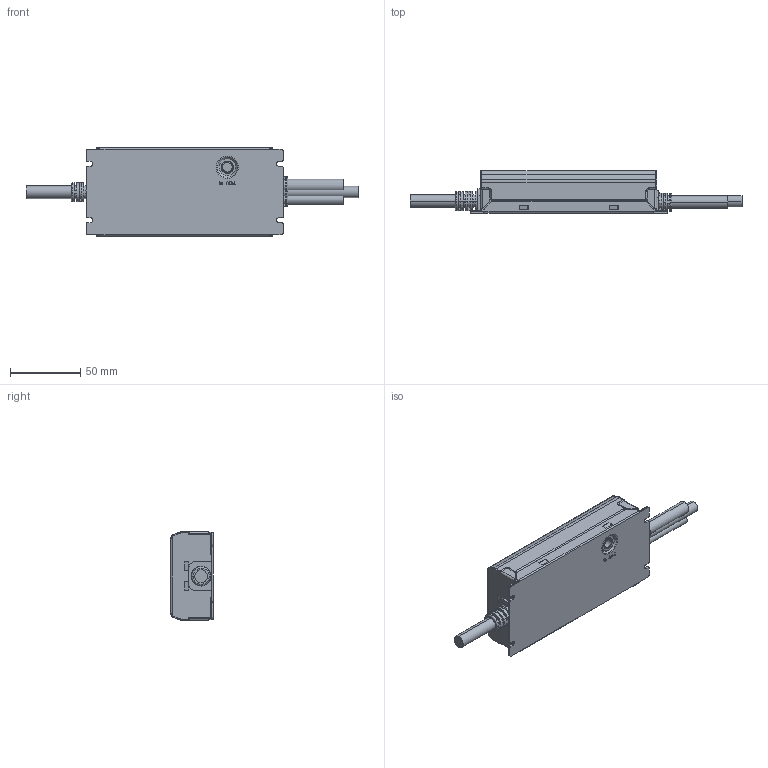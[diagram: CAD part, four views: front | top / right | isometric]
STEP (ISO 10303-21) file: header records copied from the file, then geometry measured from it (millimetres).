
FILE_DESCRIPTION((''),'2;1');
FILE_NAME('XLG-75_ASM_ASM','2019-04-21T18:48:31',('shalinice'),(''),'CREO PARAMETRIC BY PTC INC, 2016390','CREO PARAMETRIC BY PTC INC, 2016390','');
FILE_SCHEMA(('AUTOMOTIVE_DESIGN { 1 0 10303 214 1 1 1 1 }'));
Length unit declared in the file: millimetre
Products named in the file (16): XLG-75C-D_7; XLG-75A-T_9_1; XLG-75A-T_9_2; XLG-75A-T_9_3; XLG-75A-T_9_4; XLG-75A-T_9_5; XLG-75A-T_9_6; XLG-75A-T_9_7; XLG-75A-T_9_ASM; PCB0_8; VRZHU_1_4; OP2_2; OP_1_2_5; XLG-75_ASM_6_ASM; IP_1_1_1_3; XLG-75_ASM_ASM
Assembly tree (15 placements, depth 4):
  XLG-75_ASM_ASM
    XLG-75_ASM_6_ASM
      XLG-75C-D_7
      XLG-75A-T_9_ASM
        XLG-75A-T_9_1
        XLG-75A-T_9_2
        XLG-75A-T_9_3
        XLG-75A-T_9_4
        XLG-75A-T_9_5
        XLG-75A-T_9_6
        XLG-75A-T_9_7
      PCB0_8
      VRZHU_1_4
      OP2_2
      OP_1_2_5
    IP_1_1_1_3
Bounding box: 235.8 x 30 x 63 mm (x, y, z)
Volume: 54041.5 mm3; surface area: 86298.4 mm2
Topology: 13 solids, 13 shells, 1046 faces, 2695 edges, 1709 vertices
Faces by surface type: plane 687, cylinder 280, torus 49, bspline 20, cone 10
Entity records: 37720 total; most frequent: CARTESIAN_POINT 10993, DIRECTION 5479, ORIENTED_EDGE 5390, EDGE_CURVE 2695, VECTOR 1827, LINE 1827, AXIS2_PLACEMENT_3D 1826, VERTEX_POINT 1709
